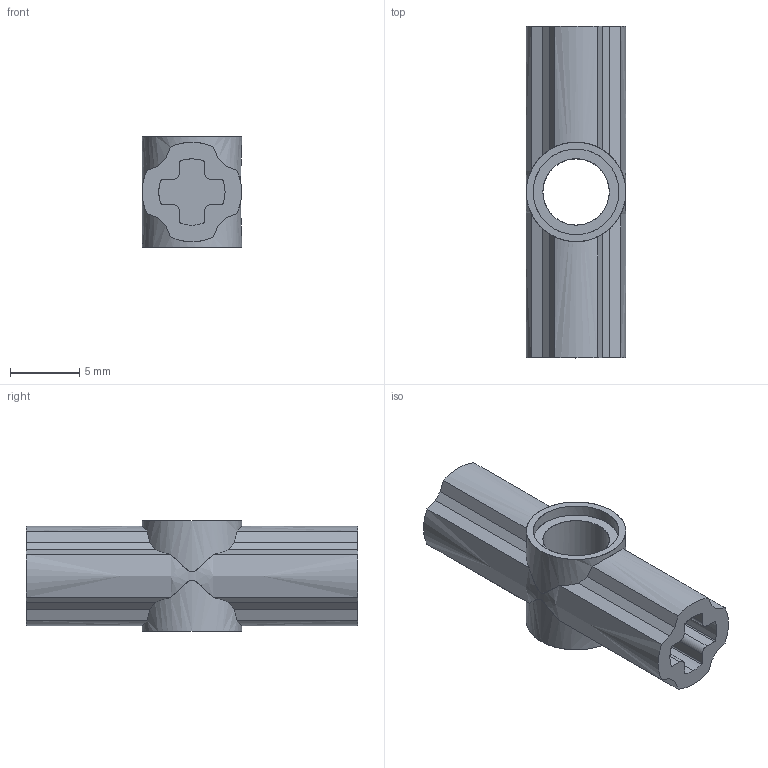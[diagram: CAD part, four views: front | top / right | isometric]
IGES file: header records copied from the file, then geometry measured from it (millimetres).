
Start section: C
Global section: file name: Black_4107783_JCA.iges; native system: By Siemens PLM Incorporated; preprocessor: XPlus GENERIC/IGES 26.1.183; author: Author; organization: Title; date: 20250721.234400; units: millimetre
Bounding box: 7.21 x 24 x 8 mm (x, y, z)
Surface area: 1048.9 mm2 (no closed solid volume)
Topology: 0 solids, 0 shells, 95 faces, 550 edges, 550 vertices
Faces by surface type: bspline 95
